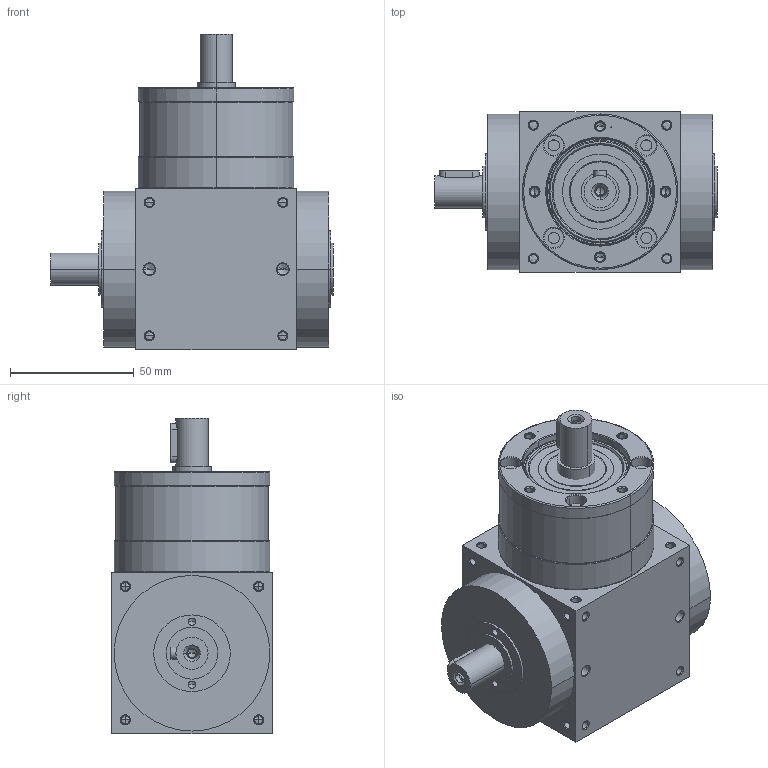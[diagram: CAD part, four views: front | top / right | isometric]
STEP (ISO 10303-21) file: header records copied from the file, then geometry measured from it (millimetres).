
FILE_DESCRIPTION((''),'2;1');
FILE_NAME('ATB065L1-1_ASM','2014-07-18T',('D00080'),(''),'PRO/ENGINEER BY PARAMETRIC TECHNOLOGY CORPORATION, 2008170','PRO/ENGINEER BY PARAMETRIC TECHNOLOGY CORPORATION, 2008170','');
FILE_SCHEMA(('CONFIG_CONTROL_DESIGN'));
Length unit declared in the file: millimetre
Products named in the file (4): ATBL1-HOUSING-1-2; P1820200001; 22400071002; ATB065L1-1_ASM
Assembly tree (3 placements, depth 2):
  ATB065L1-1_ASM
    ATBL1-HOUSING-1-2
    P1820200001
    22400071002
Bounding box: 114.5 x 65 x 127.5 mm (x, y, z)
Volume: 443027.5 mm3; surface area: 65689.4 mm2
Topology: 4 solids, 34 shells, 556 faces, 1380 edges, 817 vertices
Faces by surface type: cylinder 258, cone 192, plane 72, torus 34
Entity records: 16648 total; most frequent: CARTESIAN_POINT 3520, DIRECTION 2934, ORIENTED_EDGE 2492, EDGE_CURVE 1306, AXIS2_PLACEMENT_3D 1229, VERTEX_POINT 817, CIRCLE 662, EDGE_LOOP 659
